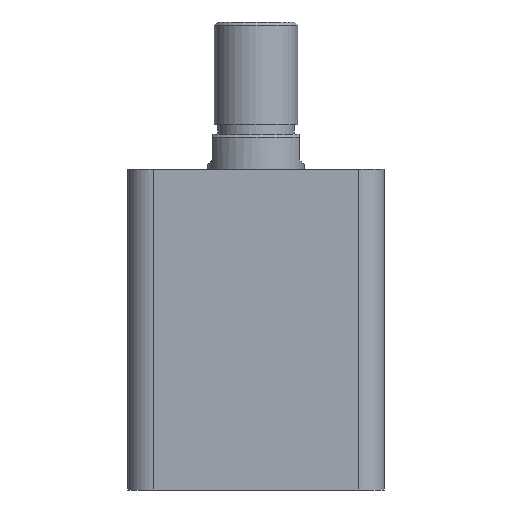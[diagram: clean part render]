
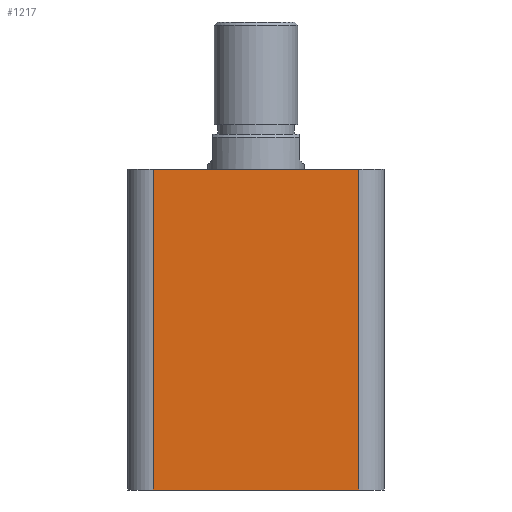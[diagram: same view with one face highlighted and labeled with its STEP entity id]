
A CAD part, front view. The second image highlights one B-rep face of the part: STEP entity #1217.
In plain terms, the highlighted planar face has unit normal (0, -1, 0).
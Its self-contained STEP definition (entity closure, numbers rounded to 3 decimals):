
#21 = EDGE_CURVE ( 'NONE', #482, #489, #1254, .T. ) ;
#78 = EDGE_LOOP ( 'NONE', ( #1283, #1284, #1285, #1286 ) ) ;
#328 = FACE_OUTER_BOUND ( 'NONE', #78, .T. ) ;
#352 = VERTEX_POINT ( 'NONE', #1767 ) ;
#360 = VERTEX_POINT ( 'NONE', #1771 ) ;
#482 = VERTEX_POINT ( 'NONE', #1784 ) ;
#489 = VERTEX_POINT ( 'NONE', #1783 ) ;
#713 = DIRECTION ( 'NONE',  ( 1., 0., 0. ) ) ;
#715 = CARTESIAN_POINT ( 'NONE',  ( -40., -40., 100. ) ) ;
#719 = DIRECTION ( 'NONE',  ( 0., 0., -1. ) ) ;
#721 = CARTESIAN_POINT ( 'NONE',  ( -32., -40., 100. ) ) ;
#725 = CARTESIAN_POINT ( 'NONE',  ( 32., -40., 100. ) ) ;
#733 = DIRECTION ( 'NONE',  ( 0., 0., 1. ) ) ;
#980 = AXIS2_PLACEMENT_3D ( 'NONE', #2356, #2352, #2351 ) ;
#1217 = ADVANCED_FACE ( 'NONE', ( #328 ), #2354, .F. ) ;
#1251 = VECTOR ( 'NONE', #1866, 1000. ) ;
#1254 = LINE ( 'NONE', #1893, #1251 ) ;
#1283 = ORIENTED_EDGE ( 'NONE', *, *, #2262, .F. ) ;
#1284 = ORIENTED_EDGE ( 'NONE', *, *, #2260, .T. ) ;
#1285 = ORIENTED_EDGE ( 'NONE', *, *, #21, .T. ) ;
#1286 = ORIENTED_EDGE ( 'NONE', *, *, #2259, .T. ) ;
#1767 = CARTESIAN_POINT ( 'NONE',  ( -32., -40., 100. ) ) ;
#1771 = CARTESIAN_POINT ( 'NONE',  ( 32., -40., 100. ) ) ;
#1783 = CARTESIAN_POINT ( 'NONE',  ( 32., -40., 0. ) ) ;
#1784 = CARTESIAN_POINT ( 'NONE',  ( -32., -40., 0. ) ) ;
#1866 = DIRECTION ( 'NONE',  ( 1., 0., 0. ) ) ;
#1893 = CARTESIAN_POINT ( 'NONE',  ( -40., -40., 0. ) ) ;
#2259 = EDGE_CURVE ( 'NONE', #489, #360, #2650, .T. ) ;
#2260 = EDGE_CURVE ( 'NONE', #352, #482, #2647, .T. ) ;
#2262 = EDGE_CURVE ( 'NONE', #352, #360, #2643, .T. ) ;
#2351 = DIRECTION ( 'NONE',  ( 0., 0., 1. ) ) ;
#2352 = DIRECTION ( 'NONE',  ( 0., 1., 0. ) ) ;
#2354 = PLANE ( 'NONE',  #980 ) ;
#2356 = CARTESIAN_POINT ( 'NONE',  ( -40., -40., 100. ) ) ;
#2640 = VECTOR ( 'NONE', #713, 1000. ) ;
#2643 = LINE ( 'NONE', #715, #2640 ) ;
#2644 = VECTOR ( 'NONE', #719, 1000. ) ;
#2646 = VECTOR ( 'NONE', #733, 1000. ) ;
#2647 = LINE ( 'NONE', #721, #2644 ) ;
#2650 = LINE ( 'NONE', #725, #2646 ) ;
